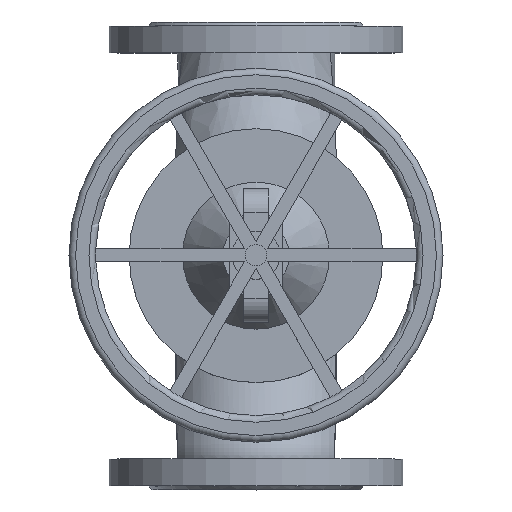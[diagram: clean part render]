
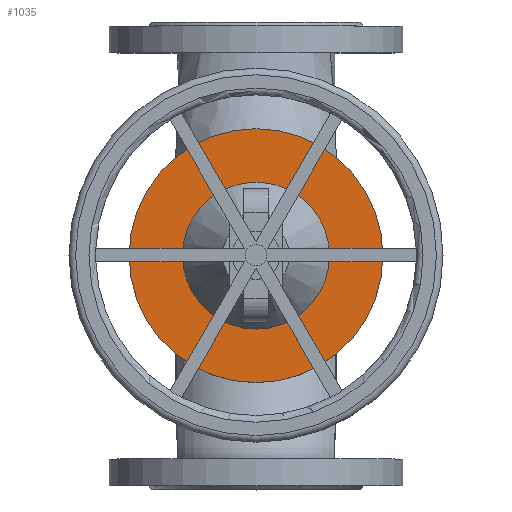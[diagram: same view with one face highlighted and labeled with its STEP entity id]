
A CAD part, top view. The second image highlights one B-rep face of the part: STEP entity #1035.
In plain terms, the highlighted planar face has unit normal (0, 0, 1).
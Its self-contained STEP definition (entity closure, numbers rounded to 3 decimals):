
#1035=ADVANCED_FACE('',(#10351,#10353),#10355,.T.);
#10351=FACE_BOUND('',#10352,.T.);
#10352=EDGE_LOOP('',(#16705));
#10353=FACE_BOUND('',#10354,.T.);
#10354=EDGE_LOOP('',(#16706));
#10355=PLANE('',#10356);
#10356=AXIS2_PLACEMENT_3D('',#10357,#10358,#10359);
#10357=CARTESIAN_POINT('',(0.,0.,147.));
#10358=DIRECTION('',(0.,0.,1.));
#10359=DIRECTION('',(0.,1.,0.));
#16705=ORIENTED_EDGE('',*,*,#17647,.F.);
#16706=ORIENTED_EDGE('',*,*,#17657,.T.);
#17647=EDGE_CURVE('',#18467,#18467,#18468,.T.);
#17657=EDGE_CURVE('',#18482,#18482,#18483,.T.);
#18467=VERTEX_POINT('',#23888);
#18468=CIRCLE('',#23889,95.);
#18482=VERTEX_POINT('',#24119);
#18483=CIRCLE('',#24120,55.);
#23888=CARTESIAN_POINT('',(0.,95.,147.));
#23889=AXIS2_PLACEMENT_3D('',#23890,#23891,#23892);
#23890=CARTESIAN_POINT('',(0.,0.,147.));
#23891=DIRECTION('',(0.,0.,-1.));
#23892=DIRECTION('',(0.,1.,0.));
#24119=CARTESIAN_POINT('',(0.,55.,147.));
#24120=AXIS2_PLACEMENT_3D('',#24121,#24122,#24123);
#24121=CARTESIAN_POINT('',(0.,0.,147.));
#24122=DIRECTION('',(0.,0.,-1.));
#24123=DIRECTION('',(0.,1.,0.));
